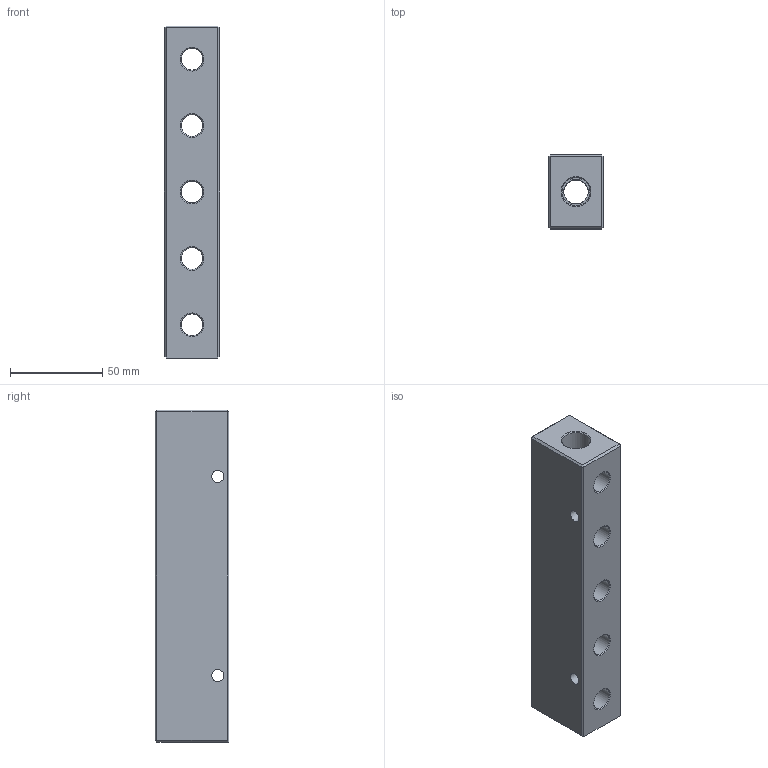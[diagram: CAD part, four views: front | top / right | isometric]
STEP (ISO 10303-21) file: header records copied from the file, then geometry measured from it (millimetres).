
FILE_DESCRIPTION(/* description */ (''),/* implementation_level */ '2;1');
FILE_NAME(/* name */ 'BXH90 2B3 10B2.stp',/* time_stamp */ '2024-11-19T12:44:42+01:00',/* author */ ('freju'),/* organization */ (''),/* preprocessor_version */ 'ST-DEVELOPER v20',/* originating_system */ 'Autodesk Inventor 2025',/* authorisation */ '');
FILE_SCHEMA (('AUTOMOTIVE_DESIGN { 1 0 10303 214 3 1 1 }'));
Length unit declared in the file: millimetre
Products named in the file (1): BXH90 2B3 10B2
Bounding box: 30 x 40 x 180 mm (x, y, z)
Volume: 172129 mm3; surface area: 38564.5 mm2
Topology: 1 solids, 1 shells, 52 faces, 129 edges, 81 vertices
Faces by surface type: plane 25, cylinder 15, cone 12
Full cylindrical faces by diameter (mm): 6.5 x2, 11.8 x10, 13.25 x1, 15.25 x2
Entity records: 2007 total; most frequent: CARTESIAN_POINT 683, ORIENTED_EDGE 258, DIRECTION 254, EDGE_CURVE 129, AXIS2_PLACEMENT_3D 92, VERTEX_POINT 81, EDGE_LOOP 80, LINE 70
